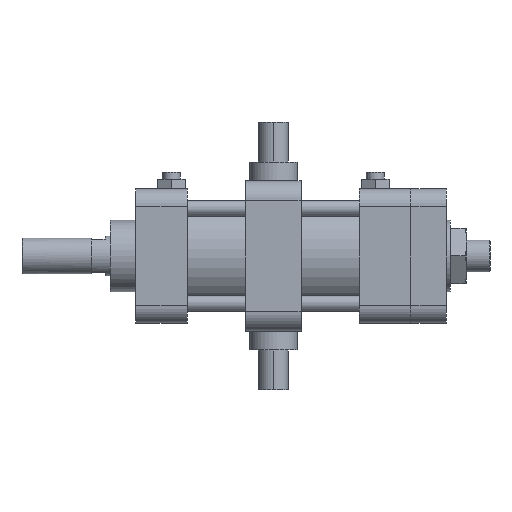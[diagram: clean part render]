
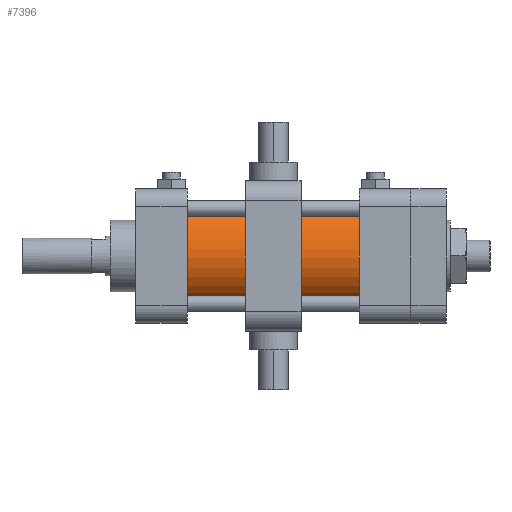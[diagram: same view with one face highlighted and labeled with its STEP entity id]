
A CAD part, front view. The second image highlights one B-rep face of the part: STEP entity #7396.
In plain terms, the highlighted cylindrical face has radius 28 mm (diameter 56 mm), a partial arc.
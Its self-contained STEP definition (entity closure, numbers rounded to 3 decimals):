
#140 = EDGE_LOOP ( 'NONE', ( #8795, #2094, #6383, #1646 ) ) ;
#488 = AXIS2_PLACEMENT_3D ( 'NONE', #8335, #6329, #7822 ) ;
#496 = EDGE_CURVE ( 'NONE', #8466, #7670, #9489, .T. ) ;
#1334 = DIRECTION ( 'NONE',  ( -1., 0., 0. ) ) ;
#1646 = ORIENTED_EDGE ( 'NONE', *, *, #496, .F. ) ;
#1954 = FACE_OUTER_BOUND ( 'NONE', #140, .T. ) ;
#2094 = ORIENTED_EDGE ( 'NONE', *, *, #5661, .T. ) ;
#2135 = CARTESIAN_POINT ( 'NONE',  ( -43.5, 0., -28. ) ) ;
#2513 = DIRECTION ( 'NONE',  ( -1., 0., 0. ) ) ;
#2582 = CARTESIAN_POINT ( 'NONE',  ( -43.5, 0., 0. ) ) ;
#2849 = LINE ( 'NONE', #3017, #10389 ) ;
#2851 = DIRECTION ( 'NONE',  ( 0., 0., 1. ) ) ;
#2976 = CARTESIAN_POINT ( 'NONE',  ( 43.5, 0., -28. ) ) ;
#3017 = CARTESIAN_POINT ( 'NONE',  ( -29.1, 0., 28. ) ) ;
#4438 = AXIS2_PLACEMENT_3D ( 'NONE', #4900, #2513, #2851 ) ;
#4900 = CARTESIAN_POINT ( 'NONE',  ( 43.5, 0., 0. ) ) ;
#4902 = DIRECTION ( 'NONE',  ( -1., 0., 0. ) ) ;
#5400 = CARTESIAN_POINT ( 'NONE',  ( -43.5, 0., 28. ) ) ;
#5478 = EDGE_CURVE ( 'NONE', #8633, #8466, #9406, .T. ) ;
#5494 = VERTEX_POINT ( 'NONE', #10088 ) ;
#5661 = EDGE_CURVE ( 'NONE', #8633, #5494, #7397, .T. ) ;
#6004 = VECTOR ( 'NONE', #4902, 1000. ) ;
#6329 = DIRECTION ( 'NONE',  ( -1., 0., 0. ) ) ;
#6383 = ORIENTED_EDGE ( 'NONE', *, *, #10294, .T. ) ;
#6763 = DIRECTION ( 'NONE',  ( -1., 0., 0. ) ) ;
#7136 = CYLINDRICAL_SURFACE ( 'NONE', #488, 28. ) ;
#7396 = ADVANCED_FACE ( 'NONE', ( #1954 ), #7136, .T. ) ;
#7397 = CIRCLE ( 'NONE', #4438, 28. ) ;
#7670 = VERTEX_POINT ( 'NONE', #5400 ) ;
#7784 = DIRECTION ( 'NONE',  ( 0., 0., 1. ) ) ;
#7822 = DIRECTION ( 'NONE',  ( 0., 0., 1. ) ) ;
#8335 = CARTESIAN_POINT ( 'NONE',  ( -29.1, 0., 0. ) ) ;
#8466 = VERTEX_POINT ( 'NONE', #2135 ) ;
#8633 = VERTEX_POINT ( 'NONE', #2976 ) ;
#8730 = CARTESIAN_POINT ( 'NONE',  ( -29.1, 0., -28. ) ) ;
#8795 = ORIENTED_EDGE ( 'NONE', *, *, #5478, .F. ) ;
#9372 = AXIS2_PLACEMENT_3D ( 'NONE', #2582, #6763, #7784 ) ;
#9406 = LINE ( 'NONE', #8730, #6004 ) ;
#9489 = CIRCLE ( 'NONE', #9372, 28. ) ;
#10088 = CARTESIAN_POINT ( 'NONE',  ( 43.5, 0., 28. ) ) ;
#10294 = EDGE_CURVE ( 'NONE', #5494, #7670, #2849, .T. ) ;
#10389 = VECTOR ( 'NONE', #1334, 1000. ) ;
